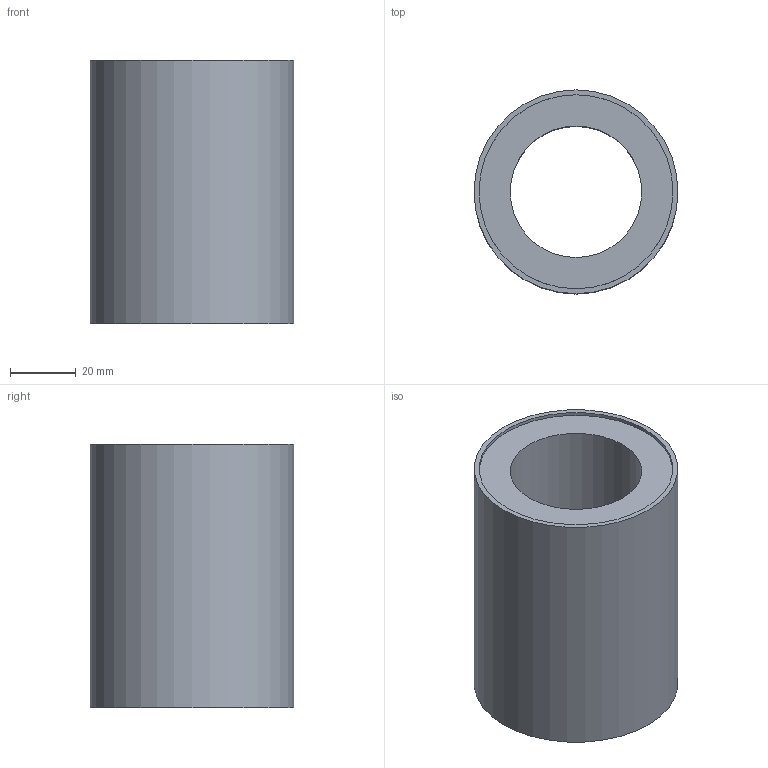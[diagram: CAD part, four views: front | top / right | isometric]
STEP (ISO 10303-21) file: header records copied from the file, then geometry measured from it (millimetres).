
FILE_DESCRIPTION(/* description */ (''),/* implementation_level */ '2;1');
FILE_NAME(/* name */ 'W:\WEBOVKY\Knecht\SBE-UU\SBE-40-UU\SBE-40-UU.stp',/* time_stamp */ '2021-03-08T13:16:13+01:00',/* author */ ('mkorenek'),/* organization */ (''),/* preprocessor_version */ 'ST-DEVELOPER v18.1',/* originating_system */ 'Autodesk Inventor 2021',/* authorisation */ '');
FILE_SCHEMA (('AUTOMOTIVE_DESIGN { 1 0 10303 214 3 1 1 }'));
Length unit declared in the file: millimetre
Products named in the file (3): LME-40-UU; vnitřek pouzdra; vnějšek pouzdra
Assembly tree (2 placements, depth 2):
  LME-40-UU
    vnitřek pouzdra
    vnějšek pouzdra
Bounding box: 62 x 62 x 80 mm (x, y, z)
Volume: 137967.7 mm3; surface area: 58190.6 mm2
Topology: 2 solids, 2 shells, 8 faces, 16 edges, 12 vertices
Faces by surface type: plane 4, cylinder 4
Full cylindrical faces by diameter (mm): 40 x1, 58.99 x1, 59 x1, 62 x1
Entity records: 359 total; most frequent: DIRECTION 54, CARTESIAN_POINT 41, ORIENTED_EDGE 32, AXIS2_PLACEMENT_3D 25, EDGE_CURVE 16, EDGE_LOOP 12, CIRCLE 12, VERTEX_POINT 12
